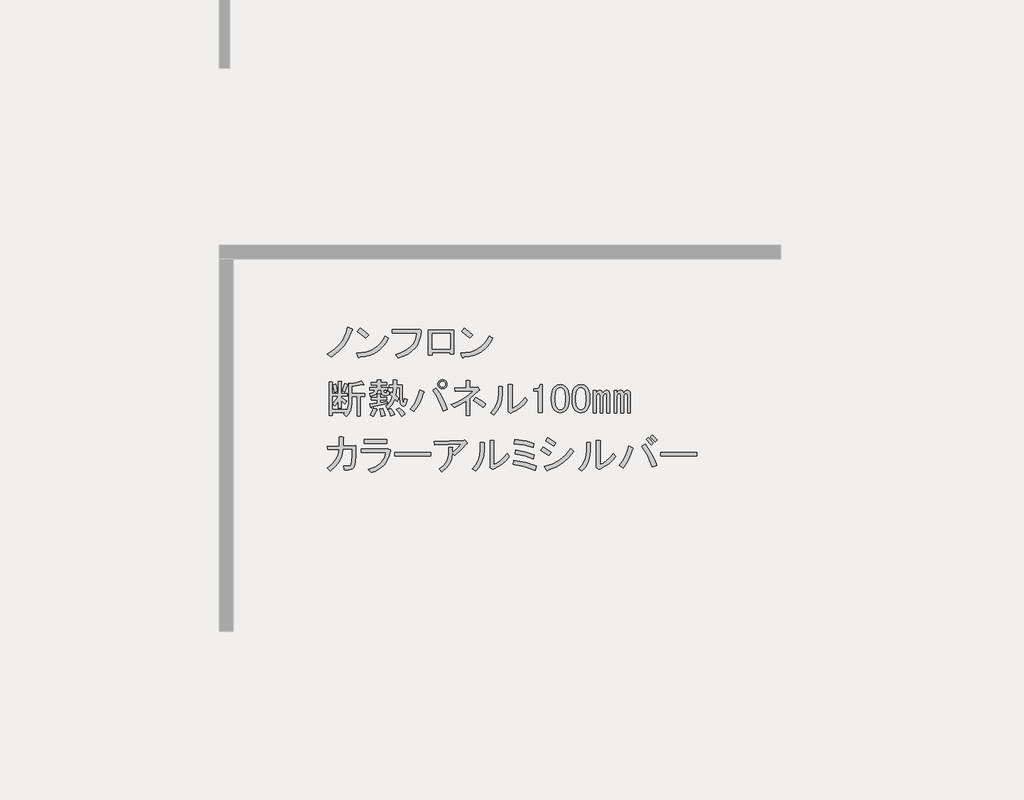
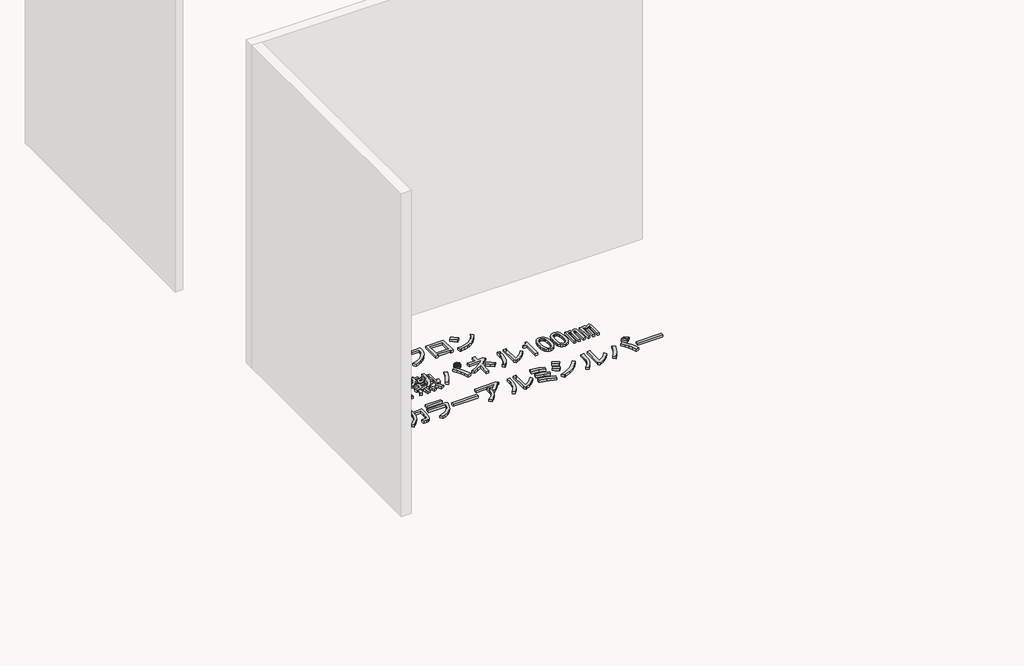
# One storey, part 40 of 117: 1 proxy.
"""IFC4 building model written with IfcOpenShell, lengths in millimetres."""

from ifc_helpers import new_model, si_unit, frame, origin, place, context, project, spatial, polyline, outline, extrude, element, save

model = new_model("IFC4")

# Units and contexts
model_context = context("Model", 3, world=origin())
ifc_project = project(units=[si_unit("LENGTHUNIT", "METRE", prefix="MILLI")], contexts=[model_context])

# Site, building, storey
site = spatial("IfcSite", under=ifc_project)
building = spatial("IfcBuilding", under=site)
storey = spatial("IfcBuildingStorey", under=building, Name="レベル 1", Elevation=500.0)

# Proxy
placement = place(None, origin())
element("IfcBuildingElementProxy", 1, Name="200㎜\u3000MS Pゴシック", ObjectType="200㎜\u3000MS Pゴシック", at=placement, inside=storey, context=model_context, shape_type="SweptSolid", body=[
    extrude(outline(polyline([(943.6706985, -4607.0496882), (918.0952502, -4666.8215225), (889.646156, -4712.7998566), (847.9782907, -4758.2034615), (798.8389462, -4795.560858), (771.2519457, -4773.7211493), (818.9544673, -4743.2605029), (858.6107805, -4704.7536481), (875.9963381, -4680.8305462), (891.3703435, -4652.7406577), (904.7327969, -4620.4839827), (916.0836981, -4584.0605212), (947.1190736, -4597.8540214), (950.2800841, -4602.4518548), (943.6706985, -4607.0496882)])), frame((0.0, 0.0, 500.0), z_axis=(0.0, 0.0, 1.0), x_axis=(1.0, 0.0, 0.0)), (0.0, 0.0, 1.0), 25.0),
    extrude(outline(polyline([(1043.3977052, -4662.2236891), (984.7753292, -4615.0958967), (1004.3161212, -4590.9572713), (1031.6157571, -4610.7854279), (1065.2374138, -4640.3839804), (1043.3977052, -4662.2236891)])), frame((0.0, 0.0, 500.0), z_axis=(0.0, 0.0, 1.0), x_axis=(1.0, 0.0, 0.0)), (0.0, 0.0, 1.0), 25.0),
    extrude(outline(polyline([(1205.4713328, -4662.2236891), (1188.947869, -4691.965924), (1169.8381239, -4717.9724192), (1148.1420975, -4740.2431748), (1123.8597898, -4758.7781907), (1096.9912008, -4773.577467), (1067.5363306, -4784.6410036), (1035.495179, -4791.9688006), (1000.8677461, -4795.560858), (995.1204544, -4803.6070664), (989.3731626, -4797.8597747), (980.1774958, -4767.9738575), (1016.0082679, -4765.2977748), (1048.7857912, -4758.9937141), (1078.5100658, -4749.0616756), (1105.1810916, -4735.5016591), (1128.7988687, -4718.3136646), (1149.363397, -4697.4976923), (1166.8746766, -4673.053742), (1181.3327074, -4644.9818138), (1205.4713328, -4662.2236891)])), frame((0.0, 0.0, 500.0), z_axis=(0.0, 0.0, 1.0), x_axis=(1.0, 0.0, 0.0)), (0.0, 0.0, 1.0), 25.0),
    extrude(outline(polyline([(1256.2314136, -4777.1695243), (1290.014713, -4767.4889298), (1319.5234641, -4755.1142922), (1344.757667, -4740.0456116), (1365.7173217, -4722.282888), (1382.402428, -4701.8261214), (1394.8129862, -4678.6753118), (1402.9489961, -4652.8304591), (1406.8104577, -4624.2915635), (1234.3917049, -4624.2915635), (1234.3917049, -4599.0034798), (1409.1093744, -4599.0034798), (1425.2017914, -4595.5551047), (1437.8458332, -4607.0496882), (1434.325617, -4643.5449909), (1426.0638851, -4676.5919185), (1413.0606375, -4706.1904711), (1395.3158742, -4732.3406486), (1372.8295952, -4755.042451), (1345.6018005, -4774.2958784), (1313.6324901, -4790.1009308), (1276.921664, -4802.4576081), (1256.2314136, -4777.1695243)])), frame((0.0, 0.0, 500.0), z_axis=(0.0, 0.0, 1.0), x_axis=(1.0, 0.0, 0.0)), (0.0, 0.0, 1.0), 25.0),
    extrude(outline(polyline([(1670.955987, -4776.020066), (1644.5184449, -4776.020066), (1644.5184449, -4763.3760241), (1516.9285679, -4763.3760241), (1516.9285679, -4781.7673577), (1490.4910258, -4781.7673577), (1490.4910258, -4602.4518548), (1670.955987, -4602.4518548), (1670.955987, -4776.020066)]), holes=[polyline([(1516.9285679, -4627.7399386), (1516.9285679, -4738.0879404), (1644.5184449, -4738.0879404), (1644.5184449, -4627.7399386), (1516.9285679, -4627.7399386)])]), frame((0.0, 0.0, 500.0), z_axis=(0.0, 0.0, 1.0), x_axis=(1.0, 0.0, 0.0)), (0.0, 0.0, 1.0), 25.0),
    extrude(outline(polyline([(1947.0099049, -4662.2236891), (1930.4864411, -4691.965924), (1911.376696, -4717.9724192), (1889.6806696, -4740.2431748), (1865.3983619, -4758.7781907), (1838.5297729, -4773.577467), (1809.0749026, -4784.6410036), (1777.0337511, -4791.9688006), (1742.4063182, -4795.560858), (1736.6590264, -4803.6070664), (1730.9117347, -4797.8597747), (1721.7160679, -4767.9738575), (1757.5468399, -4765.2977748), (1790.3243633, -4758.9937141), (1820.0486378, -4749.0616756), (1846.7196637, -4735.5016591), (1870.3374407, -4718.3136646), (1890.9019691, -4697.4976923), (1908.4132486, -4673.053742), (1922.8712795, -4644.9818138), (1947.0099049, -4662.2236891)])), frame((0.0, 0.0, 500.0), z_axis=(0.0, 0.0, 1.0), x_axis=(1.0, 0.0, 0.0)), (0.0, 0.0, 1.0), 25.0),
    extrude(outline(polyline([(1784.9362772, -4662.2236891), (1726.3139013, -4615.0958967), (1745.8546933, -4590.9572713), (1773.1543291, -4610.7854279), (1806.7759859, -4640.3839804), (1784.9362772, -4662.2236891)])), frame((0.0, 0.0, 500.0), z_axis=(0.0, 0.0, 1.0), x_axis=(1.0, 0.0, 0.0)), (0.0, 0.0, 1.0), 25.0),
    extrude(outline(polyline([(877.0021141, -5039.2345221), (894.2439894, -4986.3594379), (914.9342397, -4992.1067296), (916.6584273, -4995.2677401), (912.635323, -4997.8540214), (895.3934477, -5046.1312722), (877.0021141, -5039.2345221)])), frame((0.0, 0.0, 500.0), z_axis=(0.0, 0.0, 1.0), x_axis=(1.0, 0.0, 0.0)), (0.0, 0.0, 1.0), 25.0),
    extrude(outline(polyline([(1031.0295333, -4990.9572713), (1029.3053458, -4995.5551047), (1021.8338665, -4993.256188), (944.8201569, -5005.9002299), (944.8201569, -5055.326939), (1036.7768251, -5055.326939), (1036.7768251, -5077.1666477), (1005.7414495, -5077.1666477), (1005.7414495, -5217.4005666), (982.7522825, -5217.4005666), (982.7522825, -5077.1666477), (944.8201569, -5077.1666477), (944.8201569, -5126.5933568), (942.2338756, -5154.3958807), (934.4750317, -5179.1810764), (921.5436253, -5200.948944), (903.4396562, -5219.6994833), (886.1977809, -5200.1586914), (896.5429061, -5190.9630245), (806.8851546, -5190.9630245), (806.8851546, -5212.8027332), (783.8959876, -5212.8027332), (783.8959876, -4973.715396), (805.7356963, -4973.715396), (810.6208943, -4976.0143127), (806.8851546, -4980.6121461), (806.8851546, -5056.4763974), (849.4151137, -5056.4763974), (849.4151137, -4969.1175626), (867.8064473, -4969.1175626), (872.6916453, -4971.4164793), (868.9559057, -4976.0143127), (868.9559057, -5056.4763974), (912.635323, -5056.4763974), (912.635323, -5074.867731), (868.9559057, -5074.867731), (868.9559057, -5084.0633978), (909.186948, -5110.5009399), (895.3934477, -5132.3406486), (868.9559057, -5105.9031065), (868.9559057, -5158.7781907), (849.4151137, -5158.7781907), (849.4151137, -5110.5009399), (836.1963426, -5130.3290965), (821.8281132, -5146.1341488), (809.1840713, -5127.7428152), (831.02378, -5103.6041898), (848.2656553, -5074.867731), (806.8851546, -5074.867731), (806.8851546, -5169.1233159), (904.5891146, -5169.1233159), (904.5891146, -5182.9168161), (917.520521, -5158.7781907), (921.8309898, -5125.4438985), (921.8309898, -4980.6121461), (943.6706985, -4986.3594379), (979.8786366, -4978.8879586), (1010.339283, -4965.6691875), (1031.0295333, -4990.9572713)])), frame((0.0, 0.0, 500.0), z_axis=(0.0, 0.0, 1.0), x_axis=(1.0, 0.0, 0.0)), (0.0, 0.0, 1.0), 25.0),
    extrude(outline(polyline([(822.9775716, -5047.2807305), (810.3335297, -4996.7045631), (829.8743217, -4989.8078129), (837.6331656, -5013.9464383), (842.5183636, -5040.3839804), (822.9775716, -5047.2807305)])), frame((0.0, 0.0, 500.0), z_axis=(0.0, 0.0, 1.0), x_axis=(1.0, 0.0, 0.0)), (0.0, 0.0, 1.0), 25.0),
    extrude(outline(polyline([(1121.8367431, -5167.9738575), (1125.2851182, -5172.8590555), (1119.5378264, -5176.020066), (1109.7674304, -5201.5955143), (1098.8475761, -5220.8489417), (1075.858409, -5209.3543582), (1088.5024509, -5185.790462), (1098.8475761, -5158.7781907), (1121.8367431, -5167.9738575)])), frame((0.0, 0.0, 500.0), z_axis=(0.0, 0.0, 1.0), x_axis=(1.0, 0.0, 0.0)), (0.0, 0.0, 1.0), 25.0),
    extrude(outline(polyline([(1166.6656188, -5163.3760241), (1176.7233794, -5190.67566), (1181.6085774, -5212.8027332), (1152.8721186, -5218.550025), (1150.2858373, -5196.9976809), (1142.5269934, -5166.8243992), (1166.6656188, -5163.3760241)])), frame((0.0, 0.0, 500.0), z_axis=(0.0, 0.0, 1.0), x_axis=(1.0, 0.0, 0.0)), (0.0, 0.0, 1.0), 25.0),
    extrude(outline(polyline([(1281.611454, -5157.6287323), (1306.3248086, -5178.8937119), (1325.2908714, -5203.6070664), (1298.8533293, -5218.550025), (1279.5999019, -5188.9514724), (1260.9212037, -5169.1233159), (1281.611454, -5157.6287323)])), frame((0.0, 0.0, 500.0), z_axis=(0.0, 0.0, 1.0), x_axis=(1.0, 0.0, 0.0)), (0.0, 0.0, 1.0), 25.0),
    extrude(outline(polyline([(1222.9890781, -5216.2511083), (1214.655505, -5191.5377537), (1201.1493694, -5170.2727742), (1221.8396197, -5162.2265657), (1238.7941304, -5183.7789098), (1250.5760785, -5207.0554415), (1222.9890781, -5216.2511083)])), frame((0.0, 0.0, 500.0), z_axis=(0.0, 0.0, 1.0), x_axis=(1.0, 0.0, 0.0)), (0.0, 0.0, 1.0), 25.0),
    extrude(outline(polyline([(1083.9046175, -5153.0308989), (1081.8930654, -5157.9160969), (1078.1573257, -5156.479274), (1072.410034, -5132.3406486), (1127.5840349, -5124.2944401), (1127.5840349, -5101.3052731), (1083.9046175, -5101.3052731), (1083.9046175, -5082.9139395), (1127.5840349, -5082.9139395), (1127.5840349, -5059.9247724), (1145.9753685, -5059.9247724), (1150.8605665, -5062.2236891), (1147.1248268, -5066.8215225), (1147.1248268, -5082.9139395), (1191.9537026, -5082.9139395), (1191.9537026, -5101.3052731), (1147.1248268, -5101.3052731), (1147.1248268, -5120.8460651), (1197.7009943, -5111.6503983), (1197.7009943, -5127.7428152), (1083.9046175, -5153.0308989)])), frame((0.0, 0.0, 500.0), z_axis=(0.0, 0.0, 1.0), x_axis=(1.0, 0.0, 0.0)), (0.0, 0.0, 1.0), 25.0),
    extrude(outline(polyline([(1154.021577, -5031.1883136), (1128.7334932, -5031.1883136), (1124.1356598, -5048.6457123), (1113.7905346, -5061.9363245), (1097.6981177, -5071.0601502), (1075.858409, -5076.0171893), (1071.2605756, -5056.4763974), (1096.5486594, -5047.8554597), (1104.0201386, -5040.5276627), (1108.0432429, -5031.1883136), (1072.410034, -5031.1883136), (1072.410034, -5012.79698), (1126.4345765, -5012.79698), (1126.4345765, -4995.5551047), (1082.7551591, -4995.5551047), (1082.7551591, -4977.1637711), (1126.4345765, -4977.1637711), (1126.4345765, -4958.7724374), (1148.2742852, -4958.7724374), (1153.1594832, -4961.0713541), (1149.4237436, -4965.6691875), (1149.4237436, -4977.1637711), (1191.9537026, -4977.1637711), (1191.9537026, -4995.5551047), (1149.4237436, -4995.5551047), (1149.4237436, -5012.79698), (1202.2988277, -5012.79698), (1202.2988277, -5031.1883136), (1173.5623689, -5031.1883136), (1173.5623689, -5043.8323555), (1174.9991919, -5049.0049181), (1179.3096607, -5050.7291056), (1189.6547859, -5050.7291056), (1193.3905255, -5047.5680951), (1193.1031609, -5038.0850637), (1212.6439529, -5040.3839804), (1209.770307, -5061.9363245), (1204.4540622, -5067.3244106), (1196.551536, -5069.1204392), (1172.4129106, -5069.1204392), (1158.6194104, -5064.2352412), (1154.021577, -5049.5796472), (1154.021577, -5031.1883136)])), frame((0.0, 0.0, 500.0), z_axis=(0.0, 0.0, 1.0), x_axis=(1.0, 0.0, 0.0)), (0.0, 0.0, 1.0), 25.0),
    extrude(outline(polyline([(1285.0598291, -5013.9464383), (1263.2201204, -5013.9464383), (1258.622287, -5071.4193559), (1278.163079, -5089.8106896), (1267.8179538, -5111.6503983), (1251.7255369, -5095.5579813), (1232.4721095, -5133.2027424), (1202.2988277, -5165.6749408), (1185.0569525, -5144.9846905), (1200.1435933, -5133.0590601), (1213.2186821, -5117.9724192), (1224.2822187, -5099.7247679), (1233.3342033, -5078.316106), (1216.092328, -5063.3731475), (1224.1385364, -5046.1312722), (1237.9320367, -5056.4763974), (1240.2309534, -5013.9464383), (1212.6439529, -5013.9464383), (1212.6439529, -4995.5551047), (1240.2309534, -4995.5551047), (1240.2309534, -4961.0713541), (1262.0706621, -4961.0713541), (1266.95586, -4963.3702708), (1263.2201204, -4967.9681043), (1263.2201204, -4995.5551047), (1304.6006211, -4995.5551047), (1304.6006211, -5092.1096063), (1308.0489961, -5116.2482317), (1311.2818477, -5118.2597838), (1314.0836525, -5115.0987733), (1318.3941213, -5093.2590646), (1337.9349133, -5100.1558147), (1333.408921, -5126.9525626), (1325.578236, -5142.9731384), (1314.4428582, -5148.2175421), (1300.0027877, -5142.6857738), (1293.4652433, -5135.3579768), (1288.7955687, -5123.719711), (1285.0598291, -5087.5117729), (1285.0598291, -5013.9464383)])), frame((0.0, 0.0, 500.0), z_axis=(0.0, 0.0, 1.0), x_axis=(1.0, 0.0, 0.0)), (0.0, 0.0, 1.0), 25.0),
    extrude(outline(polyline([(1543.6879583, -5016.245355), (1570.3410238, -5052.9561812), (1592.8273029, -5090.6727833), (1611.1467953, -5129.3951616), (1625.2995013, -5169.1233159), (1594.2641258, -5179.468441), (1578.8182792, -5136.3637528), (1561.2171982, -5097.856898), (1541.4608827, -5063.9478766), (1519.5493329, -5034.6366887), (1543.6879583, -5016.245355)])), frame((0.0, 0.0, 500.0), z_axis=(0.0, 0.0, 1.0), x_axis=(1.0, 0.0, 0.0)), (0.0, 0.0, 1.0), 25.0),
    extrude(outline(polyline([(1456.3291235, -5042.6828971), (1460.3522278, -5048.1428243), (1454.0302068, -5053.0280223), (1442.1045764, -5088.4457078), (1427.0179356, -5122.282888), (1408.7702842, -5154.539563), (1387.3616224, -5185.2157328), (1360.9240803, -5167.9738575), (1384.1287708, -5136.5074351), (1403.1666748, -5103.0294606), (1418.0377922, -5067.539934), (1428.7421231, -5030.0388553), (1456.3291235, -5042.6828971)])), frame((0.0, 0.0, 500.0), z_axis=(0.0, 0.0, 1.0), x_axis=(1.0, 0.0, 0.0)), (0.0, 0.0, 1.0), 25.0),
    extrude(outline(polyline([(1589.6662924, -5021.9926468), (1577.0222505, -5019.6937301), (1566.6771253, -5012.79698), (1559.7803752, -5002.4518548), (1557.4814585, -4989.8078129), (1559.7803752, -4977.1637711), (1566.6771253, -4966.8186459), (1577.0222505, -4959.9218958), (1589.6662924, -4957.6229791), (1602.3103343, -4959.9218958), (1612.6554594, -4966.8186459), (1619.5522095, -4977.1637711), (1621.8511262, -4989.8078129), (1619.5522095, -5002.4518548), (1612.6554594, -5012.79698), (1602.3103343, -5019.6937301), (1589.6662924, -5021.9926468)]), holes=[polyline([(1589.6662924, -5010.4980633), (1597.9998654, -5009.0612403), (1604.609251, -5004.7507715), (1608.9197198, -4998.141386), (1610.3565427, -4989.8078129), (1608.9197198, -4981.4742399), (1604.609251, -4974.8648544), (1597.9998654, -4970.5543855), (1589.6662924, -4969.1175626), (1581.3327193, -4970.5543855), (1574.7233338, -4974.8648544), (1570.412865, -4981.4742399), (1568.976042, -4989.8078129), (1570.412865, -4998.141386), (1574.7233338, -5004.7507715), (1581.3327193, -5009.0612403), (1589.6662924, -5010.4980633)])]), frame((0.0, 0.0, 500.0), z_axis=(0.0, 0.0, 1.0), x_axis=(1.0, 0.0, 0.0)), (0.0, 0.0, 1.0), 25.0),
    extrude(outline(polyline([(1879.3297971, -5155.3298156), (1842.2597652, -5126.0186277), (1809.2128376, -5104.7536481), (1826.4547129, -5082.9139395), (1865.2489323, -5106.1904711), (1898.8705891, -5132.3406486), (1879.3297971, -5155.3298156)])), frame((0.0, 0.0, 500.0), z_axis=(0.0, 0.0, 1.0), x_axis=(1.0, 0.0, 0.0)), (0.0, 0.0, 1.0), 25.0),
    extrude(outline(polyline([(1833.351463, -5011.6475216), (1840.2482131, -5009.3486049), (1852.892255, -5026.5904802), (1854.0417134, -5032.6251366), (1848.2944216, -5034.6366887), (1785.0742122, -5090.9601479), (1785.0742122, -5211.6532749), (1758.6366701, -5211.6532749), (1758.6366701, -5109.3514816), (1718.4056278, -5133.4901069), (1673.5767521, -5155.3298156), (1654.0359601, -5134.6395653), (1699.5832473, -5115.1706145), (1740.8200657, -5092.3969709), (1777.7464152, -5066.3186345), (1810.362296, -5036.9356054), (1680.4735022, -5042.6828971), (1677.0251271, -5017.3948134), (1758.6366701, -5015.0958967), (1758.6366701, -4963.3702708), (1781.6258372, -4963.3702708), (1787.6604935, -4966.8186459), (1785.0742122, -4972.5659377), (1785.0742122, -5013.9464383), (1833.351463, -5011.6475216)])), frame((0.0, 0.0, 500.0), z_axis=(0.0, 0.0, 1.0), x_axis=(1.0, 0.0, 0.0)), (0.0, 0.0, 1.0), 25.0),
    extrude(outline(polyline([(1932.296838, -5193.2619413), (1957.4412394, -5164.0225944), (1975.4015262, -5131.4785548), (1986.1776982, -5095.6298225), (1989.7697556, -5056.4763974), (1989.7697556, -5004.7507715), (2013.908381, -5004.7507715), (2019.6556727, -5008.1991466), (2016.2072977, -5013.9464383), (2016.2072977, -5055.326939), (2012.3997169, -5101.0897496), (2000.9769745, -5141.82368), (1981.9390705, -5177.5287301), (1955.286005, -5208.2048998), (1932.296838, -5193.2619413)])), frame((0.0, 0.0, 500.0), z_axis=(0.0, 0.0, 1.0), x_axis=(1.0, 0.0, 0.0)), (0.0, 0.0, 1.0), 25.0),
    extrude(outline(polyline([(2086.3242571, -5162.2265657), (2111.1094529, -5150.0135708), (2134.8888725, -5132.9153778), (2157.6625161, -5110.9319868), (2179.4303837, -5084.0633978), (2195.5228006, -5105.9031065), (2172.246269, -5133.7056304), (2146.0960914, -5157.3413678), (2117.0722681, -5176.8103186), (2085.1747988, -5192.1124829), (2075.979132, -5196.7103163), (2057.5877983, -5182.9168161), (2059.886715, -5177.1695243), (2059.886715, -4992.1067296), (2084.0253404, -4992.1067296), (2089.7726322, -4995.5551047), (2086.3242571, -5001.3023965), (2086.3242571, -5162.2265657)])), frame((0.0, 0.0, 500.0), z_axis=(0.0, 0.0, 1.0), x_axis=(1.0, 0.0, 0.0)), (0.0, 0.0, 1.0), 25.0),
    extrude(outline(polyline([(2274.8354269, -5015.0958967), (2282.8816353, -5004.1760423), (2286.3300104, -4992.1067296), (2300.1235106, -4992.1067296), (2300.1235106, -5190.9630245), (2273.6859685, -5190.9630245), (2273.6859685, -5038.0850637), (2239.202218, -5038.0850637), (2239.202218, -5024.2915635), (2249.5473431, -5024.2915635), (2263.9155725, -5021.9926468), (2274.8354269, -5015.0958967)])), frame((0.0, 0.0, 500.0), z_axis=(0.0, 0.0, 1.0), x_axis=(1.0, 0.0, 0.0)), (0.0, 0.0, 1.0), 25.0),
    extrude(outline(polyline([(2365.6426367, -5081.7644811), (2367.0794596, -5058.2005849), (2371.3899284, -5038.0850637), (2378.5740431, -5021.4179176), (2388.6318037, -5008.1991466), (2406.7357728, -4996.1298339), (2428.862846, -4992.1067296), (2450.9899193, -4996.1298339), (2469.0938884, -5008.1991466), (2479.1516489, -5021.4179176), (2486.3357636, -5038.0850637), (2490.6462325, -5058.2005849), (2492.0830554, -5081.7644811), (2492.0830554, -5104.7536481), (2490.6462325, -5127.8146563), (2486.3357636, -5147.5709718), (2479.1516489, -5164.0225944), (2469.0938884, -5177.1695243), (2450.9899193, -5189.238837), (2428.862846, -5193.2619413), (2406.7357728, -5189.238837), (2388.6318037, -5177.1695243), (2378.5740431, -5164.0225944), (2371.3899284, -5147.5709718), (2367.0794596, -5127.8146563), (2365.6426367, -5104.7536481), (2365.6426367, -5081.7644811)]), holes=[polyline([(2428.862846, -5013.9464383), (2417.9429917, -5016.245355), (2408.1725957, -5023.1421052), (2401.6350513, -5032.2659308), (2396.9653768, -5044.6944493), (2393.2296371, -5079.4655644), (2393.2296371, -5105.9031065), (2397.2527414, -5140.0994925), (2402.2816217, -5152.6716932), (2409.3220541, -5162.2265657), (2418.8050855, -5169.1233159), (2428.862846, -5171.4222326), (2439.7827004, -5169.1233159), (2449.5530964, -5162.2265657), (2456.0906408, -5153.1027401), (2460.7603153, -5140.6742216), (2464.496055, -5105.9031065), (2464.496055, -5079.4655644), (2460.7603153, -5044.6944493), (2456.0906408, -5032.2659308), (2449.5530964, -5023.1421052), (2439.7827004, -5016.245355), (2428.862846, -5013.9464383)])]), frame((0.0, 0.0, 500.0), z_axis=(0.0, 0.0, 1.0), x_axis=(1.0, 0.0, 0.0)), (0.0, 0.0, 1.0), 25.0),
    extrude(outline(polyline([(2512.7733057, -5081.7644811), (2514.2101287, -5058.2005849), (2518.5205975, -5038.0850637), (2525.7047122, -5021.4179176), (2535.7624728, -5008.1991466), (2553.8664418, -4996.1298339), (2575.9935151, -4992.1067296), (2598.1205884, -4996.1298339), (2616.2245574, -5008.1991466), (2626.282318, -5021.4179176), (2633.4664327, -5038.0850637), (2637.7769015, -5058.2005849), (2639.2137245, -5081.7644811), (2639.2137245, -5104.7536481), (2637.7769015, -5127.8146563), (2633.4664327, -5147.5709718), (2626.282318, -5164.0225944), (2616.2245574, -5177.1695243), (2598.1205884, -5189.238837), (2575.9935151, -5193.2619413), (2553.8664418, -5189.238837), (2535.7624728, -5177.1695243), (2525.7047122, -5164.0225944), (2518.5205975, -5147.5709718), (2514.2101287, -5127.8146563), (2512.7733057, -5104.7536481), (2512.7733057, -5081.7644811)]), holes=[polyline([(2575.9935151, -5013.9464383), (2565.0736608, -5016.245355), (2555.3032648, -5023.1421052), (2548.7657204, -5032.2659308), (2544.0960458, -5044.6944493), (2540.3603062, -5079.4655644), (2540.3603062, -5105.9031065), (2544.3834104, -5140.0994925), (2549.4122907, -5152.6716932), (2556.4527231, -5162.2265657), (2565.9357545, -5169.1233159), (2575.9935151, -5171.4222326), (2586.9133694, -5169.1233159), (2596.6837654, -5162.2265657), (2603.2213098, -5153.1027401), (2607.8909844, -5140.6742216), (2611.626724, -5105.9031065), (2611.626724, -5079.4655644), (2607.8909844, -5044.6944493), (2603.2213098, -5032.2659308), (2596.6837654, -5023.1421052), (2586.9133694, -5016.245355), (2575.9935151, -5013.9464383)])]), frame((0.0, 0.0, 500.0), z_axis=(0.0, 0.0, 1.0), x_axis=(1.0, 0.0, 0.0)), (0.0, 0.0, 1.0), 25.0),
    extrude(outline(polyline([(2684.0426002, -5193.2619413), (2664.5018082, -5193.2619413), (2664.5018082, -5035.786147), (2684.0426002, -5035.786147), (2684.0426002, -5053.0280223), (2696.1119129, -5037.5103346), (2709.3306839, -5032.337772), (2718.5263508, -5033.7745949), (2725.4231009, -5038.0850637), (2732.319851, -5051.878564), (2745.2512574, -5037.22297), (2758.7573931, -5032.337772), (2767.0909661, -5033.7745949), (2773.7003517, -5038.0850637), (2778.8729142, -5046.7060014), (2780.5971018, -5058.7753141), (2780.5971018, -5193.2619413), (2761.0563098, -5193.2619413), (2761.0563098, -5069.1204392), (2758.4700285, -5059.6374078), (2750.7111846, -5056.4763974), (2740.3660594, -5061.0742308), (2734.3314031, -5069.6951684), (2732.319851, -5079.4655644), (2732.319851, -5193.2619413), (2712.779059, -5193.2619413), (2712.779059, -5069.1204392), (2710.1927777, -5059.6374078), (2702.4339338, -5056.4763974), (2692.0888087, -5061.0742308), (2686.0541523, -5069.6951684), (2684.0426002, -5079.4655644), (2684.0426002, -5193.2619413)])), frame((0.0, 0.0, 500.0), z_axis=(0.0, 0.0, 1.0), x_axis=(1.0, 0.0, 0.0)), (0.0, 0.0, 1.0), 25.0),
    extrude(outline(polyline([(2905.8880621, -5032.337772), (2914.2216352, -5033.7745949), (2920.8310207, -5038.0850637), (2926.0035833, -5046.7060014), (2927.7277708, -5058.7753141), (2927.7277708, -5193.2619413), (2908.1869788, -5193.2619413), (2908.1869788, -5069.1204392), (2905.6006976, -5059.6374078), (2897.8418537, -5056.4763974), (2887.4967285, -5061.0742308), (2881.4620722, -5069.6951684), (2879.45052, -5079.4655644), (2879.45052, -5193.2619413), (2859.9097281, -5193.2619413), (2859.9097281, -5069.1204392), (2857.3234468, -5059.6374078), (2849.5646029, -5056.4763974), (2839.2194777, -5061.0742308), (2833.1848214, -5069.6951684), (2831.1732693, -5079.4655644), (2831.1732693, -5193.2619413), (2811.6324773, -5193.2619413), (2811.6324773, -5035.786147), (2831.1732693, -5035.786147), (2831.1732693, -5053.0280223), (2843.242582, -5037.5103346), (2856.461353, -5032.337772), (2865.6570198, -5033.7745949), (2872.5537699, -5038.0850637), (2879.45052, -5051.878564), (2892.3819265, -5037.22297), (2905.8880621, -5032.337772)])), frame((0.0, 0.0, 500.0), z_axis=(0.0, 0.0, 1.0), x_axis=(1.0, 0.0, 0.0)), (0.0, 0.0, 1.0), 25.0),
    extrude(outline(polyline([(947.1190736, -5450.7291056), (881.5999475, -5453.0280223), (873.3382156, -5499.293721), (855.44977, -5540.3868571), (827.9346107, -5576.3074306), (790.7927377, -5607.0554415), (771.2519457, -5587.5146495), (806.2385843, -5559.2810787), (831.8858738, -5527.4554506), (848.1938142, -5492.0377651), (855.1624054, -5453.0280223), (773.5508624, -5455.326939), (771.2519457, -5432.337772), (856.3118638, -5430.0388553), (856.3118638, -5365.6691875), (880.4504892, -5365.6691875), (887.3472393, -5369.1175626), (882.7494059, -5374.8648544), (882.7494059, -5430.0388553), (973.5566157, -5426.5904802), (973.5566157, -5497.856898), (970.9703344, -5545.8467842), (963.2114905, -5577.1695243), (956.602105, -5587.2272849), (947.1190736, -5594.4113996), (934.7623963, -5598.7218684), (919.5320731, -5600.1586914), (891.9450727, -5600.1586914), (888.4966976, -5571.4222326), (918.3826148, -5573.7211493), (932.4634796, -5570.8475034), (940.2223235, -5562.2265657), (945.3948861, -5536.938482), (947.1190736, -5497.856898), (947.1190736, -5450.7291056)])), frame((0.0, 0.0, 500.0), z_axis=(0.0, 0.0, 1.0), x_axis=(1.0, 0.0, 0.0)), (0.0, 0.0, 1.0), 25.0),
    extrude(outline(polyline([(1061.9729521, -5596.7103163), (1111.6151847, -5578.3908238), (1131.8564279, -5566.2676303), (1149.0444223, -5552.1688052), (1163.179168, -5536.0943485), (1174.2606649, -5518.0442603), (1182.2889131, -5498.0185406), (1187.2639125, -5476.0171893), (1012.546243, -5476.0171893), (1012.546243, -5450.7291056), (1188.4133709, -5450.7291056), (1198.758496, -5447.2807305), (1219.4487464, -5459.9247724), (1222.3223922, -5465.3846996), (1217.1498297, -5470.2698976), (1211.0253719, -5497.7491363), (1201.8476653, -5522.7139349), (1189.6167101, -5545.1642933), (1174.332506, -5565.1002116), (1155.9950533, -5582.5216898), (1134.6043517, -5597.4287278), (1110.1604015, -5609.8213256), (1082.6632025, -5619.6994833), (1061.9729521, -5596.7103163)])), frame((0.0, 0.0, 500.0), z_axis=(0.0, 0.0, 1.0), x_axis=(1.0, 0.0, 0.0)), (0.0, 0.0, 1.0), 25.0),
    extrude(outline(polyline([(1191.8617459, -5410.4980633), (1033.2364933, -5410.4980633), (1033.2364933, -5385.2099795), (1191.8617459, -5385.2099795), (1191.8617459, -5410.4980633)])), frame((0.0, 0.0, 500.0), z_axis=(0.0, 0.0, 1.0), x_axis=(1.0, 0.0, 0.0)), (0.0, 0.0, 1.0), 25.0),
    extrude(outline(polyline([(1250.8979269, -5501.3052731), (1250.8979269, -5476.0171893), (1507.2271394, -5476.0171893), (1507.2271394, -5501.3052731), (1250.8979269, -5501.3052731)])), frame((0.0, 0.0, 500.0), z_axis=(0.0, 0.0, 1.0), x_axis=(1.0, 0.0, 0.0)), (0.0, 0.0, 1.0), 25.0),
    extrude(outline(polyline([(1659.8292302, -5478.316106), (1656.0216494, -5519.5529244), (1642.2999903, -5555.9045448), (1618.664253, -5587.3709672), (1585.1144373, -5613.9521916), (1565.5736453, -5592.1124829), (1595.244039, -5571.8532794), (1616.4371774, -5547.8583363), (1629.1530604, -5520.1276536), (1633.3916881, -5488.6612312), (1633.3916881, -5439.2345221), (1657.5303135, -5439.2345221), (1663.2776052, -5441.8208034), (1659.8292302, -5447.2807305), (1659.8292302, -5477.1666477), (1696.3245329, -5446.4186368), (1723.0494396, -5416.245355), (1535.6877282, -5423.1421052), (1533.3888115, -5396.7045631), (1742.5902315, -5390.9572713), (1750.63644, -5388.6583546), (1767.8783153, -5409.3486049), (1768.1656799, -5412.5096154), (1762.1310235, -5412.79698), (1724.1988979, -5456.1890328), (1679.3700222, -5496.7074397), (1659.8292302, -5478.316106)])), frame((0.0, 0.0, 500.0), z_axis=(0.0, 0.0, 1.0), x_axis=(1.0, 0.0, 0.0)), (0.0, 0.0, 1.0), 25.0),
    extrude(outline(polyline([(1956.8492684, -5562.2265657), (1981.6344641, -5550.0135708), (2005.4138837, -5532.9153778), (2028.1875273, -5510.9319868), (2049.9553949, -5484.0633978), (2066.0478118, -5505.9031065), (2042.7712802, -5533.7056304), (2016.6211027, -5557.3413678), (1987.5972793, -5576.8103186), (1955.69981, -5592.1124829), (1946.5041432, -5596.7103163), (1928.1128096, -5582.9168161), (1930.4117263, -5577.1695243), (1930.4117263, -5392.1067296), (1954.5503517, -5392.1067296), (1960.2976434, -5395.5551047), (1956.8492684, -5401.3023965), (1956.8492684, -5562.2265657)])), frame((0.0, 0.0, 500.0), z_axis=(0.0, 0.0, 1.0), x_axis=(1.0, 0.0, 0.0)), (0.0, 0.0, 1.0), 25.0),
    extrude(outline(polyline([(1802.8218492, -5593.2619413), (1827.9662506, -5564.0225944), (1845.9265374, -5531.4785548), (1856.7027094, -5495.6298225), (1860.2947668, -5456.4763974), (1860.2947668, -5404.7507715), (1884.4333922, -5404.7507715), (1890.1806839, -5408.1991466), (1886.7323089, -5413.9464383), (1886.7323089, -5455.326939), (1882.9247281, -5501.0897496), (1871.5019857, -5541.82368), (1852.4640818, -5577.5287301), (1825.8110162, -5608.2048998), (1802.8218492, -5593.2619413)])), frame((0.0, 0.0, 500.0), z_axis=(0.0, 0.0, 1.0), x_axis=(1.0, 0.0, 0.0)), (0.0, 0.0, 1.0), 25.0),
    extrude(outline(polyline([(2237.3171063, -5520.8460651), (2180.7062824, -5502.1673669), (2107.4283125, -5487.5117729), (2110.8766875, -5459.9247724), (2180.1315532, -5471.9940851), (2245.3633147, -5492.1096063), (2237.3171063, -5520.8460651)])), frame((0.0, 0.0, 500.0), z_axis=(0.0, 0.0, 1.0), x_axis=(1.0, 0.0, 0.0)), (0.0, 0.0, 1.0), 25.0),
    extrude(outline(polyline([(2251.1106065, -5604.7565248), (2167.4875114, -5577.4568889), (2093.6348123, -5562.2265657), (2099.382104, -5532.3406486), (2184.1546575, -5549.0077947), (2259.1568149, -5573.7211493), (2251.1106065, -5604.7565248)])), frame((0.0, 0.0, 500.0), z_axis=(0.0, 0.0, 1.0), x_axis=(1.0, 0.0, 0.0)), (0.0, 0.0, 1.0), 25.0),
    extrude(outline(polyline([(2106.2788541, -5384.0605212), (2187.3156679, -5395.8424693), (2241.9149397, -5410.4980633), (2235.0181896, -5440.3839804), (2173.2348031, -5423.4294697), (2102.8304791, -5413.9464383), (2106.2788541, -5384.0605212)])), frame((0.0, 0.0, 500.0), z_axis=(0.0, 0.0, 1.0), x_axis=(1.0, 0.0, 0.0)), (0.0, 0.0, 1.0), 25.0),
    extrude(outline(polyline([(2314.9285342, -5577.1695243), (2373.6945924, -5558.7063495), (2424.7018068, -5530.9038257), (2467.9501773, -5493.7619527), (2503.4397039, -5447.2807305), (2524.1299543, -5467.9709809), (2490.7956621, -5511.6503983), (2449.4151614, -5548.4330655), (2399.9884522, -5578.3189827), (2342.5155346, -5601.3081497), (2337.9177012, -5608.4922644), (2331.0209511, -5602.4576081), (2314.9285342, -5577.1695243)])), frame((0.0, 0.0, 500.0), z_axis=(0.0, 0.0, 1.0), x_axis=(1.0, 0.0, 0.0)), (0.0, 0.0, 1.0), 25.0),
    extrude(outline(polyline([(2306.8823257, -5438.0850637), (2365.5047017, -5474.867731), (2347.113368, -5499.0063564), (2289.6404504, -5462.2236891), (2306.8823257, -5438.0850637)])), frame((0.0, 0.0, 500.0), z_axis=(0.0, 0.0, 1.0), x_axis=(1.0, 0.0, 0.0)), (0.0, 0.0, 1.0), 25.0),
    extrude(outline(polyline([(2339.0671596, -5370.267021), (2397.6895355, -5407.0496882), (2381.5971186, -5431.1883136), (2324.124201, -5394.4056463), (2339.0671596, -5370.267021)])), frame((0.0, 0.0, 500.0), z_axis=(0.0, 0.0, 1.0), x_axis=(1.0, 0.0, 0.0)), (0.0, 0.0, 1.0), 25.0),
    extrude(outline(polyline([(2713.1009073, -5562.2265657), (2737.8861031, -5550.0135708), (2761.6655227, -5532.9153778), (2784.4391663, -5510.9319868), (2806.2070339, -5484.0633978), (2822.2994508, -5505.9031065), (2799.0229192, -5533.7056304), (2772.8727416, -5557.3413678), (2743.8489183, -5576.8103186), (2711.951449, -5592.1124829), (2702.7557822, -5596.7103163), (2684.3644485, -5582.9168161), (2686.6633652, -5577.1695243), (2686.6633652, -5392.1067296), (2710.8019906, -5392.1067296), (2716.5492824, -5395.5551047), (2713.1009073, -5401.3023965), (2713.1009073, -5562.2265657)])), frame((0.0, 0.0, 500.0), z_axis=(0.0, 0.0, 1.0), x_axis=(1.0, 0.0, 0.0)), (0.0, 0.0, 1.0), 25.0),
    extrude(outline(polyline([(2559.0734882, -5593.2619413), (2584.2178896, -5564.0225944), (2602.1781764, -5531.4785548), (2612.9543484, -5495.6298225), (2616.5464058, -5456.4763974), (2616.5464058, -5404.7507715), (2640.6850312, -5404.7507715), (2646.4323229, -5408.1991466), (2642.9839479, -5413.9464383), (2642.9839479, -5455.326939), (2639.1763671, -5501.0897496), (2627.7536247, -5541.82368), (2608.7157207, -5577.5287301), (2582.0626552, -5608.2048998), (2559.0734882, -5593.2619413)])), frame((0.0, 0.0, 500.0), z_axis=(0.0, 0.0, 1.0), x_axis=(1.0, 0.0, 0.0)), (0.0, 0.0, 1.0), 25.0),
    extrude(outline(polyline([(3032.6503292, -5416.245355), (3059.3033947, -5452.9561812), (3081.7896738, -5490.6727833), (3100.1091662, -5529.3951616), (3114.2618722, -5569.1233159), (3083.2264967, -5579.468441), (3067.7806501, -5536.3637528), (3050.1795691, -5497.856898), (3030.4232536, -5463.9478766), (3008.5117038, -5434.6366887), (3032.6503292, -5416.245355)])), frame((0.0, 0.0, 500.0), z_axis=(0.0, 0.0, 1.0), x_axis=(1.0, 0.0, 0.0)), (0.0, 0.0, 1.0), 25.0),
    extrude(outline(polyline([(2945.2914944, -5442.6828971), (2949.3145987, -5448.1428243), (2942.9925777, -5453.0280223), (2931.0669473, -5488.4457078), (2915.9803065, -5522.282888), (2897.7326551, -5554.539563), (2876.3239933, -5585.2157328), (2849.8864512, -5567.9738575), (2873.0911417, -5536.5074351), (2892.1290457, -5503.0294606), (2907.0001631, -5467.539934), (2917.704494, -5430.0388553), (2945.2914944, -5442.6828971)])), frame((0.0, 0.0, 500.0), z_axis=(0.0, 0.0, 1.0), x_axis=(1.0, 0.0, 0.0)), (0.0, 0.0, 1.0), 25.0),
    extrude(outline(polyline([(3083.2264967, -5353.0251457), (3120.009164, -5388.6583546), (3105.0662054, -5402.4518548), (3068.2835381, -5365.6691875), (3083.2264967, -5353.0251457)])), frame((0.0, 0.0, 500.0), z_axis=(0.0, 0.0, 1.0), x_axis=(1.0, 0.0, 0.0)), (0.0, 0.0, 1.0), 25.0),
    extrude(outline(polyline([(3055.6394962, -5370.267021), (3092.4221635, -5409.3486049), (3075.1802882, -5421.9926468), (3039.5470793, -5382.9110628), (3055.6394962, -5370.267021)])), frame((0.0, 0.0, 500.0), z_axis=(0.0, 0.0, 1.0), x_axis=(1.0, 0.0, 0.0)), (0.0, 0.0, 1.0), 25.0),
    extrude(outline(polyline([(3142.998331, -5501.3052731), (3142.998331, -5476.0171893), (3399.3275435, -5476.0171893), (3399.3275435, -5501.3052731), (3142.998331, -5501.3052731)])), frame((0.0, 0.0, 500.0), z_axis=(0.0, 0.0, 1.0), x_axis=(1.0, 0.0, 0.0)), (0.0, 0.0, 1.0), 25.0),
])

save(model, "model.ifc")
